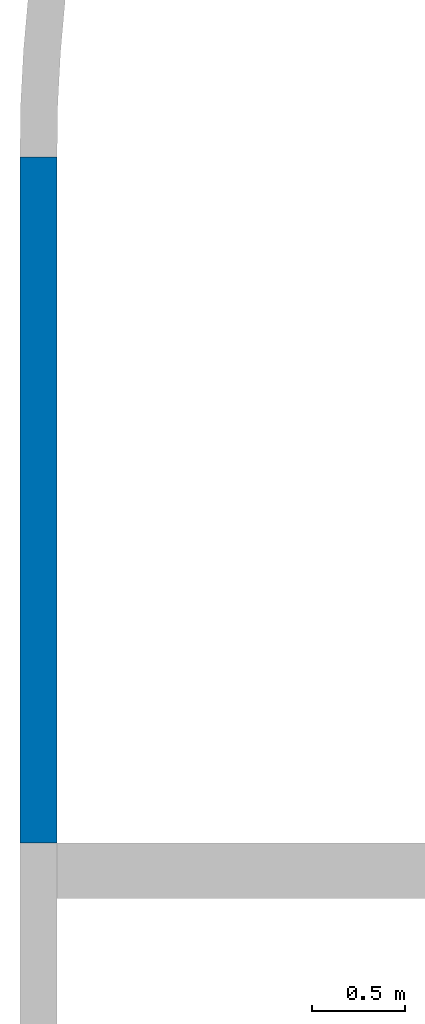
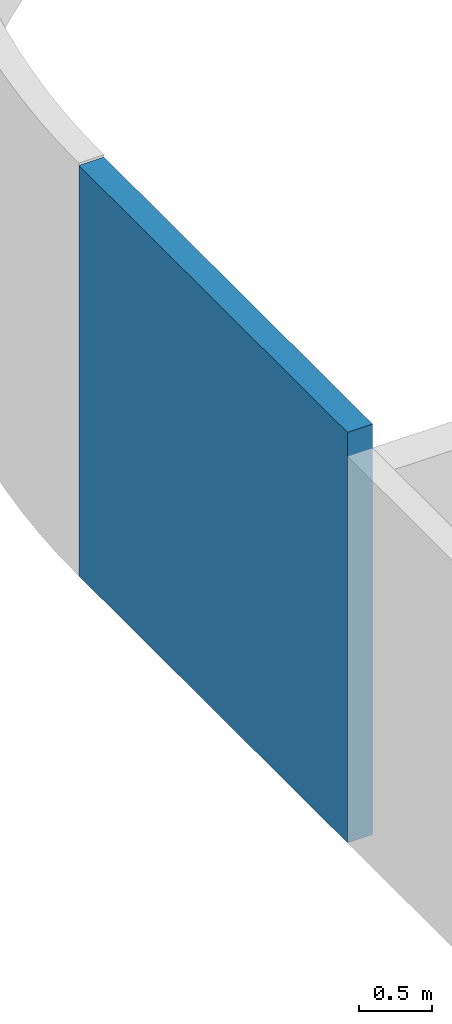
# One storey, part 6 of 8: 1 wall.
"""IFC4 building model written with IfcOpenShell, lengths in millimetres."""

from ifc_helpers import new_model, entity, si_unit, converted_unit, derived_unit, direction, frame, origin_with_axes, place, context, subcontext, project, spatial, polygons, material, constituent, constituent_set, type_object, element, save


model = new_model("IFC4")

# Units and contexts
model_context = context("Model", 3, precision=0.01, world=origin_with_axes(), true_north=direction((0.0, 1.0)))
body_context = subcontext(model_context, "Body", "Model", "MODEL_VIEW")
ifc_project = project(units=[si_unit("LENGTHUNIT", "METRE", prefix="MILLI"), si_unit("AREAUNIT", "SQUARE_METRE"), si_unit("VOLUMEUNIT", "CUBIC_METRE"), converted_unit("PLANEANGLEUNIT", "DEGREE", entity("IfcPlaneAngleMeasure", 0.0174532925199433), si_unit("PLANEANGLEUNIT", "RADIAN"), dimensions=[0, 0, 0, 0, 0, 0, 0]), converted_unit("TIMEUNIT", "Year", entity("IfcTimeMeasure", 31557600.0), si_unit("TIMEUNIT", "SECOND"), dimensions=[0, 0, 1, 0, 0, 0, 0]), si_unit("MASSUNIT", "GRAM", prefix="KILO"), si_unit("THERMODYNAMICTEMPERATUREUNIT", "DEGREE_CELSIUS"), si_unit("LUMINOUSINTENSITYUNIT", "LUMEN"), si_unit("ENERGYUNIT", "JOULE", prefix="MEGA"), derived_unit("THERMALCONDUCTANCEUNIT", [(si_unit("POWERUNIT", "WATT"), 1), (si_unit("LENGTHUNIT", "METRE"), -1), (si_unit("THERMODYNAMICTEMPERATUREUNIT", "KELVIN"), -1)]), derived_unit("SPECIFICHEATCAPACITYUNIT", [(si_unit("ENERGYUNIT", "JOULE"), 1), (si_unit("MASSUNIT", "GRAM", prefix="KILO"), -1), (si_unit("THERMODYNAMICTEMPERATUREUNIT", "KELVIN"), -1)]), derived_unit("MASSDENSITYUNIT", [(si_unit("MASSUNIT", "GRAM", prefix="KILO"), 1), (si_unit("VOLUMEUNIT", "CUBIC_METRE"), -1)])], contexts=[model_context])

# Site, building, storey
site_placement = place(None, origin_with_axes())
site = spatial("IfcSite", under=ifc_project, at=site_placement, Name="Exteriér", CompositionType="ELEMENT")
building_placement = place(site_placement, origin_with_axes())
building = spatial("IfcBuilding", under=site, at=building_placement, Name="Univerzitní lezecké centrum", CompositionType="ELEMENT")
storey_placement = place(building_placement, frame((0.0, 0.0, -3350.0), z_axis=(0.0, 0.0, 1.0), x_axis=(1.0, 0.0, 0.0)))
storey = spatial("IfcBuildingStorey", under=building, at=storey_placement, Name="1.PP", CompositionType="ELEMENT", Elevation=-3350.0)

# Wall
ifc_material = material(Name="Beton vyztužený - vnější svislé kce")
ifc_constituent = constituent(ifc_material, Name="Beton vyztužený - vnější svislé kce")
ifc_constituent_set = constituent_set(constituents=[ifc_constituent], Name="!Vnější betonová stěna 200 mm")
wall_type = type_object("IfcWallType", Name="!Vnější betonová stěna 200 mm 200", PredefinedType="NOTDEFINED")
wall_placement = place(storey_placement, frame((-5550.148351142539, 8400.000000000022, -220.0000000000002), z_axis=(0.0, 0.0, 1.0), x_axis=(0.0, -1.0, 0.0)))
element("IfcWall", 1, at=wall_placement, inside=storey, type_object=wall_type, material=ifc_constituent_set, Name="St02", PredefinedType="NOTDEFINED", context=body_context, shape_type="Tessellation", body=[
    polygons([(3700.000000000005, -200.0000000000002, 3250.0), (3700.000000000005, 0.0, 3250.0), (3700.000000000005, 0.0, 3450.0), (3700.000000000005, -200.0000000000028, 3450.0), (3700.000000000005, 0.0, 0.0), (3700.000000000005, -200.0000000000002, 0.0), (0.0, 0.0, 0.0), (0.0, 0.0, 3450.0), (0.0, -200.0000000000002, 3450.0), (0.0, -200.0000000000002, 0.0)], [[[1, 2, 3, 4]], [[5, 2, 1, 6]], [[2, 5, 7, 8, 3]], [[9, 4, 3, 8]], [[6, 1, 4, 9, 10]], [[5, 6, 10, 7]], [[9, 8, 7, 10]]], closed=True),
])

save(model, "model.ifc")
